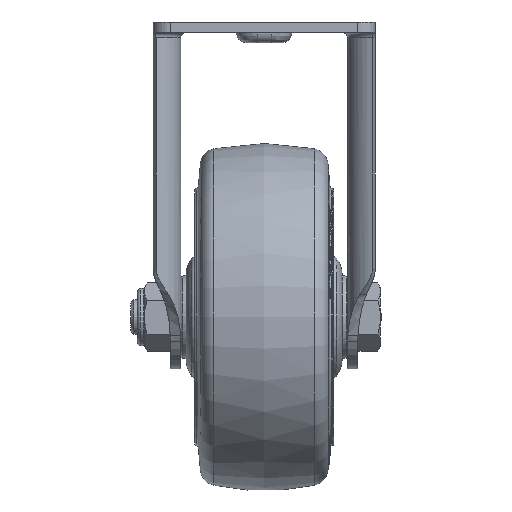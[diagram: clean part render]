
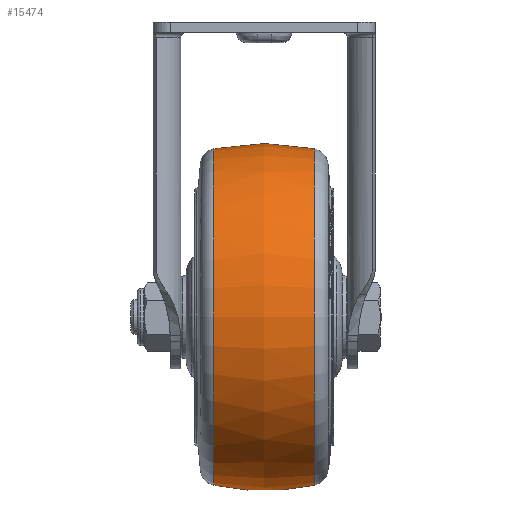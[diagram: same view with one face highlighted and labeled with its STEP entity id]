
A CAD part, left-side view. The second image highlights one B-rep face of the part: STEP entity #15474.
In plain terms, the highlighted free-form (B-spline) face has degree [2, 2] with [3, 9] control points.
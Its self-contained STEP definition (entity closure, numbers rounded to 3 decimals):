
#62=(
BOUNDED_SURFACE()
B_SPLINE_SURFACE(2,2,((#26786,#26787,#26788,#26789,#26790,#26791,#26792,
#26793,#26794),(#26795,#26796,#26797,#26798,#26799,#26800,#26801,#26802,
#26803),(#26804,#26805,#26806,#26807,#26808,#26809,#26810,#26811,#26812)),
 .UNSPECIFIED.,.F.,.T.,.F.)
B_SPLINE_SURFACE_WITH_KNOTS((3,3),(3,2,2,2,3),(-0.208,0.208),
(-3.142,-1.571,0.,1.571,3.142),
 .UNSPECIFIED.)
GEOMETRIC_REPRESENTATION_ITEM()
RATIONAL_B_SPLINE_SURFACE(((1.,0.707,1.,0.707,1.,
0.707,1.,0.707,1.),(0.978,0.692,
0.978,0.692,0.978,0.692,
0.978,0.692,0.978),(1.,0.707,
1.,0.707,1.,0.707,1.,0.707,1.)))
REPRESENTATION_ITEM('')
SURFACE()
);
#4247=FACE_OUTER_BOUND('',#5182,.T.);
#5182=EDGE_LOOP('',(#12181,#12182,#12183,#12184));
#5713=CIRCLE('',#16216,48.492);
#5732=CIRCLE('',#16244,48.492);
#5734=CIRCLE('',#16246,70.);
#6670=VERTEX_POINT('',#26736);
#6685=VERTEX_POINT('',#26783);
#8622=EDGE_CURVE('',#6670,#6670,#5713,.T.);
#8644=EDGE_CURVE('',#6685,#6685,#5732,.T.);
#8646=EDGE_CURVE('',#6670,#6685,#5734,.T.);
#12181=ORIENTED_EDGE('',*,*,#8622,.F.);
#12182=ORIENTED_EDGE('',*,*,#8646,.T.);
#12183=ORIENTED_EDGE('',*,*,#8644,.T.);
#12184=ORIENTED_EDGE('',*,*,#8646,.F.);
#15474=ADVANCED_FACE('',(#4247),#62,.F.);
#16216=AXIS2_PLACEMENT_3D('',#26738,#17598,#17599);
#16244=AXIS2_PLACEMENT_3D('',#26784,#17657,#17658);
#16246=AXIS2_PLACEMENT_3D('',#26813,#17661,#17662);
#17598=DIRECTION('center_axis',(0.,-1.,0.));
#17599=DIRECTION('ref_axis',(0.,0.,
1.));
#17657=DIRECTION('center_axis',(0.,-1.,0.));
#17658=DIRECTION('ref_axis',(0.,0.,
1.));
#17661=DIRECTION('center_axis',(1.,0.,0.));
#17662=DIRECTION('ref_axis',(0.,0.,-1.));
#26736=CARTESIAN_POINT('',(0.,-14.451,-133.492));
#26738=CARTESIAN_POINT('Origin',(0.,-14.451,
-85.));
#26783=CARTESIAN_POINT('',(0.,14.451,-133.492));
#26784=CARTESIAN_POINT('Origin',(0.,14.451,
-85.));
#26786=CARTESIAN_POINT('Ctrl Pts',(0.,14.451,
-133.492));
#26787=CARTESIAN_POINT('Ctrl Pts',(48.492,14.451,-133.492));
#26788=CARTESIAN_POINT('Ctrl Pts',(48.492,14.451,-85.));
#26789=CARTESIAN_POINT('Ctrl Pts',(48.492,14.451,-36.508));
#26790=CARTESIAN_POINT('Ctrl Pts',(0.,14.451,
-36.508));
#26791=CARTESIAN_POINT('Ctrl Pts',(-48.492,14.451,-36.508));
#26792=CARTESIAN_POINT('Ctrl Pts',(-48.492,14.451,-85.));
#26793=CARTESIAN_POINT('Ctrl Pts',(-48.492,14.451,-133.492));
#26794=CARTESIAN_POINT('Ctrl Pts',(0.,14.451,
-133.492));
#26795=CARTESIAN_POINT('Ctrl Pts',(0.,0.,
-136.541));
#26796=CARTESIAN_POINT('Ctrl Pts',(51.541,0.,
-136.541));
#26797=CARTESIAN_POINT('Ctrl Pts',(51.541,0.,
-85.));
#26798=CARTESIAN_POINT('Ctrl Pts',(51.541,0.,
-33.459));
#26799=CARTESIAN_POINT('Ctrl Pts',(0.,0.,
-33.459));
#26800=CARTESIAN_POINT('Ctrl Pts',(-51.541,0.,
-33.459));
#26801=CARTESIAN_POINT('Ctrl Pts',(-51.541,0.,
-85.));
#26802=CARTESIAN_POINT('Ctrl Pts',(-51.541,0.,
-136.541));
#26803=CARTESIAN_POINT('Ctrl Pts',(0.,0.,
-136.541));
#26804=CARTESIAN_POINT('Ctrl Pts',(0.,-14.451,
-133.492));
#26805=CARTESIAN_POINT('Ctrl Pts',(48.492,-14.451,-133.492));
#26806=CARTESIAN_POINT('Ctrl Pts',(48.492,-14.451,-85.));
#26807=CARTESIAN_POINT('Ctrl Pts',(48.492,-14.451,-36.508));
#26808=CARTESIAN_POINT('Ctrl Pts',(0.,-14.451,
-36.508));
#26809=CARTESIAN_POINT('Ctrl Pts',(-48.492,-14.451,
-36.508));
#26810=CARTESIAN_POINT('Ctrl Pts',(-48.492,-14.451,
-85.));
#26811=CARTESIAN_POINT('Ctrl Pts',(-48.492,-14.451,
-133.492));
#26812=CARTESIAN_POINT('Ctrl Pts',(0.,-14.451,
-133.492));
#26813=CARTESIAN_POINT('Origin',(0.,0.,
-65.));
